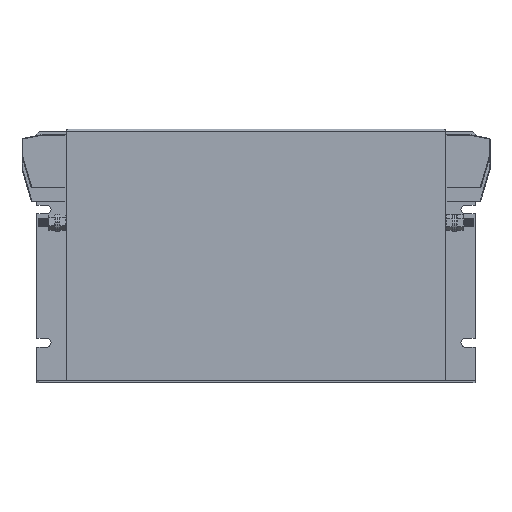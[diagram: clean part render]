
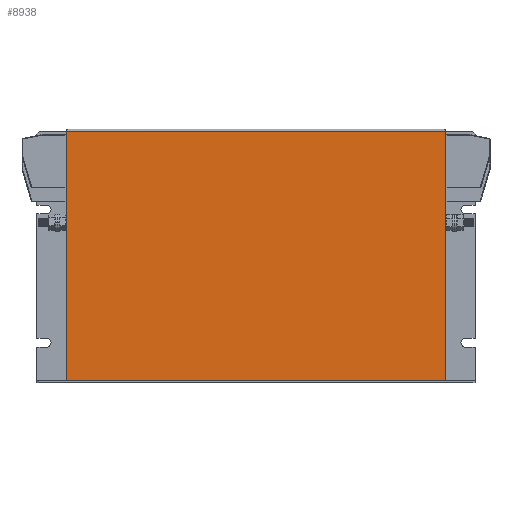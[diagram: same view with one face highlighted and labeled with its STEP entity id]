
A CAD part, top view. The second image highlights one B-rep face of the part: STEP entity #8938.
In plain terms, the highlighted planar face has unit normal (0, 0, 1).
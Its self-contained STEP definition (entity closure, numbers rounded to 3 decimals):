
#50 = LINE ( 'NONE', #5774, #7590 ) ;
#458 = CARTESIAN_POINT ( 'NONE',  ( 22., 190., 1.5 ) ) ;
#529 = PLANE ( 'NONE',  #5884 ) ;
#580 = VERTEX_POINT ( 'NONE', #6936 ) ;
#969 = VECTOR ( 'NONE', #8847, 1000. ) ;
#1046 = EDGE_CURVE ( 'NONE', #2843, #580, #50, .T. ) ;
#1196 = DIRECTION ( 'NONE',  ( -1., 0., 0. ) ) ;
#1305 = CARTESIAN_POINT ( 'NONE',  ( 22., 1.5, 1.5 ) ) ;
#1837 = VERTEX_POINT ( 'NONE', #2586 ) ;
#2046 = LINE ( 'NONE', #7059, #7797 ) ;
#2160 = VECTOR ( 'NONE', #6175, 1000. ) ;
#2586 = CARTESIAN_POINT ( 'NONE',  ( 307., 1.5, 1.5 ) ) ;
#2736 = LINE ( 'NONE', #6143, #2160 ) ;
#2825 = VERTEX_POINT ( 'NONE', #4853 ) ;
#2843 = VERTEX_POINT ( 'NONE', #7786 ) ;
#3003 = EDGE_CURVE ( 'NONE', #2825, #1837, #7558, .T. ) ;
#3299 = ORIENTED_EDGE ( 'NONE', *, *, #1046, .T. ) ;
#3665 = EDGE_LOOP ( 'NONE', ( #4756, #3299, #7990, #5006 ) ) ;
#4756 = ORIENTED_EDGE ( 'NONE', *, *, #6533, .F. ) ;
#4853 = CARTESIAN_POINT ( 'NONE',  ( 22., 1.5, 1.5 ) ) ;
#5006 = ORIENTED_EDGE ( 'NONE', *, *, #3003, .T. ) ;
#5601 = DIRECTION ( 'NONE',  ( 0., -1., 0. ) ) ;
#5774 = CARTESIAN_POINT ( 'NONE',  ( 22., 188.5, 1.5 ) ) ;
#5884 = AXIS2_PLACEMENT_3D ( 'NONE', #458, #6524, #1196 ) ;
#6143 = CARTESIAN_POINT ( 'NONE',  ( 307., 190., 1.5 ) ) ;
#6175 = DIRECTION ( 'NONE',  ( 0., -1., 0. ) ) ;
#6524 = DIRECTION ( 'NONE',  ( 0., 0., -1. ) ) ;
#6533 = EDGE_CURVE ( 'NONE', #2843, #1837, #2736, .T. ) ;
#6936 = CARTESIAN_POINT ( 'NONE',  ( 22., 188.5, 1.5 ) ) ;
#7059 = CARTESIAN_POINT ( 'NONE',  ( 22., 190., 1.5 ) ) ;
#7558 = LINE ( 'NONE', #1305, #969 ) ;
#7590 = VECTOR ( 'NONE', #8734, 1000. ) ;
#7786 = CARTESIAN_POINT ( 'NONE',  ( 307., 188.5, 1.5 ) ) ;
#7797 = VECTOR ( 'NONE', #5601, 1000. ) ;
#7990 = ORIENTED_EDGE ( 'NONE', *, *, #8861, .T. ) ;
#8734 = DIRECTION ( 'NONE',  ( -1., 0., 0. ) ) ;
#8741 = FACE_OUTER_BOUND ( 'NONE', #3665, .T. ) ;
#8847 = DIRECTION ( 'NONE',  ( 1., 0., 0. ) ) ;
#8861 = EDGE_CURVE ( 'NONE', #580, #2825, #2046, .T. ) ;
#8938 = ADVANCED_FACE ( 'NONE', ( #8741 ), #529, .F. ) ;
